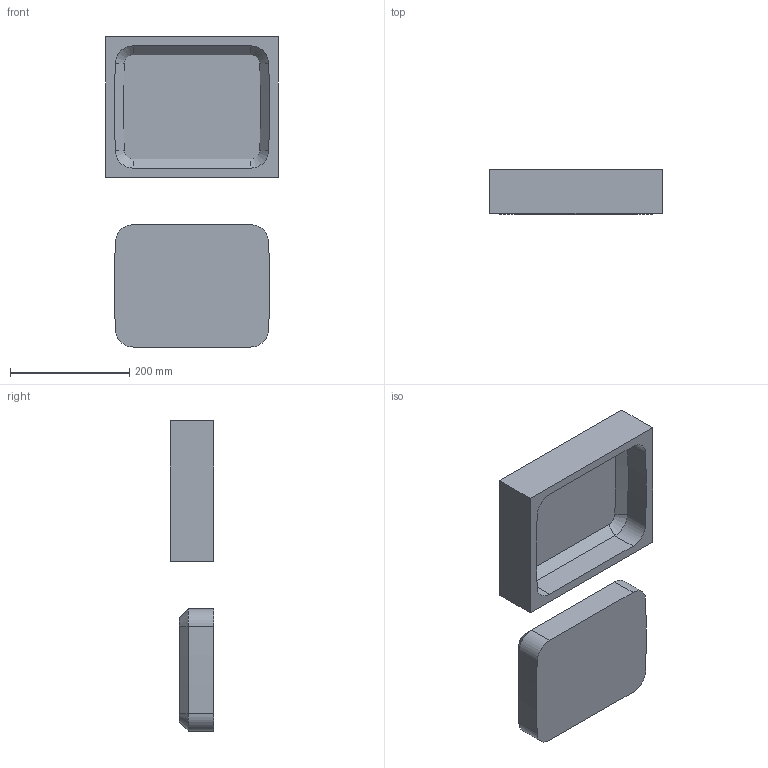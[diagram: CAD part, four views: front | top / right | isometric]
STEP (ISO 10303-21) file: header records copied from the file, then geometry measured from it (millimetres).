
FILE_DESCRIPTION (( 'STEP AP203' ), '1' );
FILE_NAME ('STA-300-254.STEP', '2018-06-20T11:08:28', ( '' ), ( '' ), 'SwSTEP 2.0', 'SolidWorks 2016', '' );
FILE_SCHEMA (( 'CONFIG_CONTROL_DESIGN' ));
Length unit declared in the file: millimetre
Products named in the file (1): STA-300-254
Bounding box: 290 x 73 x 520 mm (x, y, z)
Volume: 4974950 mm3; surface area: 402846.8 mm2
Topology: 2 solids, 2 shells, 41 faces, 92 edges, 56 vertices
Faces by surface type: plane 17, cylinder 12, cone 12
Entity records: 1209 total; most frequent: DIRECTION 212, CARTESIAN_POINT 190, ORIENTED_EDGE 184, EDGE_CURVE 92, AXIS2_PLACEMENT_3D 78, VECTOR 56, LINE 56, VERTEX_POINT 56
